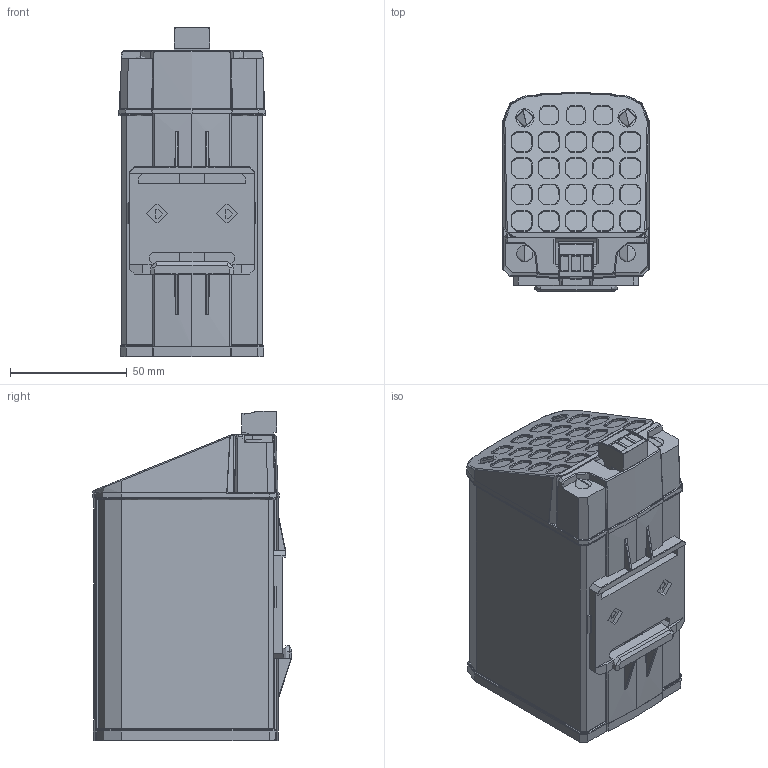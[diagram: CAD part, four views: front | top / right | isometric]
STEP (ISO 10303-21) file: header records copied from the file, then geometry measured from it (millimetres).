
FILE_DESCRIPTION(/* description */ (''),/* implementation_level */ '2;1');
FILE_NAME(/* name */ 'HTP045-60-80-1',/* time_stamp */ '2026-02-06T08:40:17+01:00',/* author */ (''),/* organization */ (''),/* preprocessor_version */ 'ST-DEVELOPER v16.5',/* originating_system */ 'Rhino 7.38',/* authorisation */ '');
FILE_SCHEMA (('AUTOMOTIVE_DESIGN'));
Length unit declared in the file: millimetre
Products named in the file (13): Document; HTP045-60-80-1; Vite ST3.5x38_semplificata; Vite ST3.5_semplificata; 2EDGKF-5.0-03P-04_semplificata; Tappo Plastico di estremità_tappo semplificato coperture plastich
e; Placchetta frontale_logo + Fandis semplificata; Copertura PLASTICA_Lunghezza L 100 mm semplificata; DT-04537DSI_Default semplificata; Placchetta posteriore_Placchetta posteriore semplificata; Blocco 01; Copertura PLASTICA_lato opposto semplificata; DT-04539DSI_Semplificata
Assembly tree (18 placements, depth 4):
  Document
    HTP045-60-80-1
      Vite ST3.5x38_semplificata  x2
      Vite ST3.5_semplificata  x6
      2EDGKF-5.0-03P-04_semplificata
      Tappo Plastico di estremità_tappo semplificato coperture plastich
e
      Placchetta frontale_logo + Fandis semplificata
      Copertura PLASTICA_Lunghezza L 100 mm semplificata
      DT-04537DSI_Default semplificata
      Placchetta posteriore_Placchetta posteriore semplificata
        Blocco 01
      Copertura PLASTICA_lato opposto semplificata
      DT-04539DSI_Semplificata
Bounding box: 62.7 x 85.32 x 141 mm (x, y, z)
Volume: 481289.9 mm3; surface area: 97387.6 mm2
Topology: 18 solids, 18 shells, 1576 faces, 4064 edges, 2584 vertices
Faces by surface type: plane 667, bspline 501, cylinder 408
Entity records: 54642 total; most frequent: CARTESIAN_POINT 28798, ORIENTED_EDGE 7984, EDGE_CURVE 3992, B_SPLINE_CURVE_WITH_KNOTS 2657, VERTEX_POINT 2542, EDGE_LOOP 1646, ADVANCED_FACE 1534, FACE_OUTER_BOUND 1534
